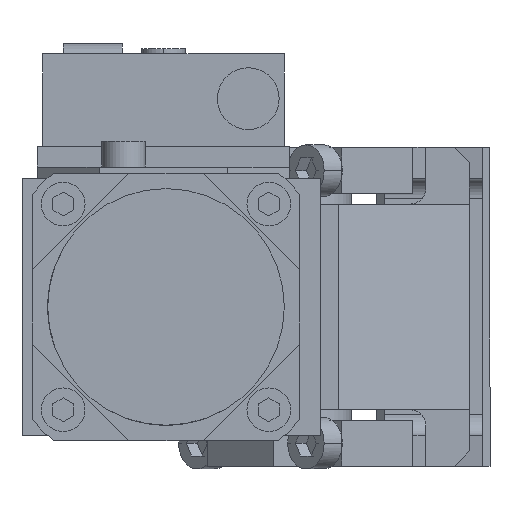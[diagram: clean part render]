
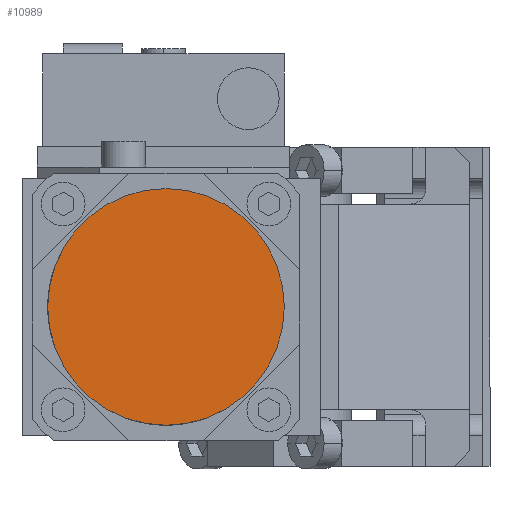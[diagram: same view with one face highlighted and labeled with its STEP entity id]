
A CAD part, front view. The second image highlights one B-rep face of the part: STEP entity #10989.
In plain terms, the highlighted planar face has unit normal (0, -1, 0) as drawn and (0, 1, 0) by its records, which use the part's own axes.
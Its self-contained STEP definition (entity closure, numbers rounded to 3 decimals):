
#77 = ORIENTED_EDGE ( 'NONE', *, *, #4295, .T. ) ;
#463 = CIRCLE ( 'NONE', #5351, 23. ) ;
#786 = DIRECTION ( 'NONE',  ( 0., 0., 1. ) ) ;
#1610 = CARTESIAN_POINT ( 'NONE',  ( 0., 113., -23. ) ) ;
#2390 = DIRECTION ( 'NONE',  ( 0., 1., 0. ) ) ;
#2878 = DIRECTION ( 'NONE',  ( 0., 0., 1. ) ) ;
#3969 = CARTESIAN_POINT ( 'NONE',  ( 0., 113., 0. ) ) ;
#4295 = EDGE_CURVE ( 'NONE', #11693, #6300, #11201, .T. ) ;
#4514 = DIRECTION ( 'NONE',  ( 0., 1., 0. ) ) ;
#4529 = FACE_OUTER_BOUND ( 'NONE', #6946, .T. ) ;
#5338 = CARTESIAN_POINT ( 'NONE',  ( 0., 113., 0. ) ) ;
#5351 = AXIS2_PLACEMENT_3D ( 'NONE', #5338, #14166, #12762 ) ;
#5721 = PLANE ( 'NONE',  #6243 ) ;
#6243 = AXIS2_PLACEMENT_3D ( 'NONE', #3969, #2390, #786 ) ;
#6300 = VERTEX_POINT ( 'NONE', #13700 ) ;
#6368 = ORIENTED_EDGE ( 'NONE', *, *, #14371, .T. ) ;
#6946 = EDGE_LOOP ( 'NONE', ( #77, #6368 ) ) ;
#7762 = CARTESIAN_POINT ( 'NONE',  ( 0., 113., 0. ) ) ;
#10989 = ADVANCED_FACE ( 'NONE', ( #4529 ), #5721, .T. ) ;
#11201 = CIRCLE ( 'NONE', #14667, 23. ) ;
#11693 = VERTEX_POINT ( 'NONE', #1610 ) ;
#12762 = DIRECTION ( 'NONE',  ( 0., 0., 1. ) ) ;
#13700 = CARTESIAN_POINT ( 'NONE',  ( 0., 113., 23. ) ) ;
#14166 = DIRECTION ( 'NONE',  ( 0., 1., 0. ) ) ;
#14371 = EDGE_CURVE ( 'NONE', #6300, #11693, #463, .T. ) ;
#14667 = AXIS2_PLACEMENT_3D ( 'NONE', #7762, #4514, #2878 ) ;
